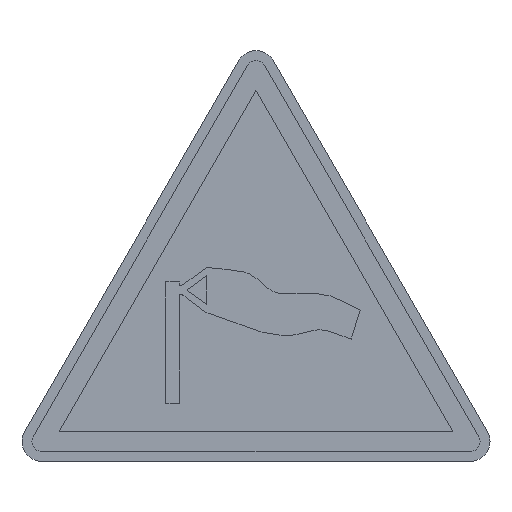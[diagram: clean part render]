
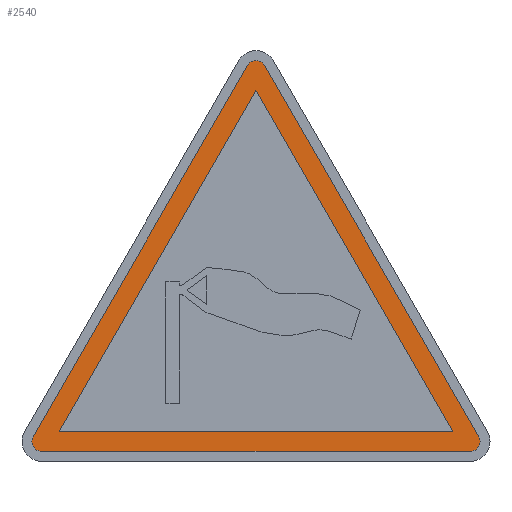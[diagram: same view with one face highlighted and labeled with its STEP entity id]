
A CAD part, top view. The second image highlights one B-rep face of the part: STEP entity #2540.
In plain terms, the highlighted planar face has unit normal (0, 0, 1).
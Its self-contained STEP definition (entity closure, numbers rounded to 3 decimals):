
#83 = DIRECTION ( 'NONE',  ( 1., 0., 0. ) ) ;
#96 = DIRECTION ( 'NONE',  ( -0.5, -0.866, 0. ) ) ;
#162 = EDGE_CURVE ( 'NONE', #1733, #490, #1542, .T. ) ;
#250 = LINE ( 'NONE', #2451, #2176 ) ;
#364 = ORIENTED_EDGE ( 'NONE', *, *, #1359, .T. ) ;
#383 = AXIS2_PLACEMENT_3D ( 'NONE', #2964, #589, #1519 ) ;
#457 = DIRECTION ( 'NONE',  ( 0., 0., 1. ) ) ;
#490 = VERTEX_POINT ( 'NONE', #990 ) ;
#589 = DIRECTION ( 'NONE',  ( 0., 0., 1. ) ) ;
#662 = CARTESIAN_POINT ( 'NONE',  ( 0., 37.301, 0.22 ) ) ;
#664 = ORIENTED_EDGE ( 'NONE', *, *, #2969, .T. ) ;
#739 = DIRECTION ( 'NONE',  ( 0., 0., 1. ) ) ;
#751 = CARTESIAN_POINT ( 'NONE',  ( -21.536, 1., 0.22 ) ) ;
#758 = EDGE_CURVE ( 'NONE', #1972, #1230, #2044, .T. ) ;
#763 = VECTOR ( 'NONE', #2882, 1000. ) ;
#799 = FACE_OUTER_BOUND ( 'NONE', #1847, .T. ) ;
#829 = AXIS2_PLACEMENT_3D ( 'NONE', #1312, #2278, #2524 ) ;
#839 = VECTOR ( 'NONE', #1090, 1000. ) ;
#856 = CARTESIAN_POINT ( 'NONE',  ( 0., 37.301, 0.22 ) ) ;
#887 = AXIS2_PLACEMENT_3D ( 'NONE', #1475, #739, #2445 ) ;
#990 = CARTESIAN_POINT ( 'NONE',  ( -22.536, 2., 0.22 ) ) ;
#1016 = CARTESIAN_POINT ( 'NONE',  ( 22.402, 2.5, 0.22 ) ) ;
#1059 = VERTEX_POINT ( 'NONE', #2442 ) ;
#1090 = DIRECTION ( 'NONE',  ( -0.5, -0.866, 0. ) ) ;
#1091 = ORIENTED_EDGE ( 'NONE', *, *, #2156, .T. ) ;
#1114 = DIRECTION ( 'NONE',  ( 1., 0., 0. ) ) ;
#1150 = DIRECTION ( 'NONE',  ( 1., 0., 0. ) ) ;
#1152 = ORIENTED_EDGE ( 'NONE', *, *, #2430, .F. ) ;
#1230 = VERTEX_POINT ( 'NONE', #2226 ) ;
#1242 = CARTESIAN_POINT ( 'NONE',  ( 22.402, 2.5, 0.22 ) ) ;
#1311 = ORIENTED_EDGE ( 'NONE', *, *, #758, .F. ) ;
#1312 = CARTESIAN_POINT ( 'NONE',  ( 0., 39.301, 0.22 ) ) ;
#1359 = EDGE_CURVE ( 'NONE', #1770, #2521, #1420, .T. ) ;
#1415 = CARTESIAN_POINT ( 'NONE',  ( -22.402, 2.5, 0.22 ) ) ;
#1420 = LINE ( 'NONE', #3062, #1455 ) ;
#1455 = VECTOR ( 'NONE', #2800, 1000. ) ;
#1475 = CARTESIAN_POINT ( 'NONE',  ( 21.536, 2., 0.22 ) ) ;
#1515 = ORIENTED_EDGE ( 'NONE', *, *, #2625, .T. ) ;
#1518 = ORIENTED_EDGE ( 'NONE', *, *, #162, .T. ) ;
#1519 = DIRECTION ( 'NONE',  ( 1., 0., 0. ) ) ;
#1537 = LINE ( 'NONE', #2268, #2729 ) ;
#1542 = CIRCLE ( 'NONE', #2399, 1. ) ;
#1667 = CARTESIAN_POINT ( 'NONE',  ( 0., 39.301, 0.22 ) ) ;
#1733 = VERTEX_POINT ( 'NONE', #1415 ) ;
#1755 = FACE_BOUND ( 'NONE', #2818, .T. ) ;
#1770 = VERTEX_POINT ( 'NONE', #751 ) ;
#1796 = CARTESIAN_POINT ( 'NONE',  ( -19.804, 3., 0.22 ) ) ;
#1802 = PLANE ( 'NONE',  #829 ) ;
#1810 = EDGE_CURVE ( 'NONE', #2521, #2120, #2957, .T. ) ;
#1830 = CARTESIAN_POINT ( 'NONE',  ( -0.866, 39.801, 0.22 ) ) ;
#1847 = EDGE_LOOP ( 'NONE', ( #1515, #1091, #1518, #1867, #364, #1938, #664 ) ) ;
#1867 = ORIENTED_EDGE ( 'NONE', *, *, #2783, .T. ) ;
#1938 = ORIENTED_EDGE ( 'NONE', *, *, #1810, .T. ) ;
#1972 = VERTEX_POINT ( 'NONE', #1796 ) ;
#2007 = CARTESIAN_POINT ( 'NONE',  ( 21.536, 1., 0.22 ) ) ;
#2044 = LINE ( 'NONE', #2765, #2810 ) ;
#2052 = ORIENTED_EDGE ( 'NONE', *, *, #2205, .F. ) ;
#2063 = LINE ( 'NONE', #856, #839 ) ;
#2120 = VERTEX_POINT ( 'NONE', #1016 ) ;
#2156 = EDGE_CURVE ( 'NONE', #2923, #1733, #1537, .T. ) ;
#2176 = VECTOR ( 'NONE', #2688, 1000. ) ;
#2205 = EDGE_CURVE ( 'NONE', #2926, #1972, #2063, .T. ) ;
#2214 = CIRCLE ( 'NONE', #383, 1. ) ;
#2226 = CARTESIAN_POINT ( 'NONE',  ( 19.804, 3., 0.22 ) ) ;
#2268 = CARTESIAN_POINT ( 'NONE',  ( -0.866, 39.801, 0.22 ) ) ;
#2278 = DIRECTION ( 'NONE',  ( 0., 0., 1. ) ) ;
#2399 = AXIS2_PLACEMENT_3D ( 'NONE', #3087, #457, #1150 ) ;
#2416 = LINE ( 'NONE', #1242, #763 ) ;
#2430 = EDGE_CURVE ( 'NONE', #1230, #2926, #250, .T. ) ;
#2442 = CARTESIAN_POINT ( 'NONE',  ( 0.866, 39.801, 0.22 ) ) ;
#2445 = DIRECTION ( 'NONE',  ( 1., 0., 0. ) ) ;
#2451 = CARTESIAN_POINT ( 'NONE',  ( 19.804, 3., 0.22 ) ) ;
#2521 = VERTEX_POINT ( 'NONE', #2007 ) ;
#2524 = DIRECTION ( 'NONE',  ( 1., 0., 0. ) ) ;
#2540 = ADVANCED_FACE ( 'NONE', ( #799, #1755 ), #1802, .T. ) ;
#2625 = EDGE_CURVE ( 'NONE', #1059, #2923, #2997, .T. ) ;
#2688 = DIRECTION ( 'NONE',  ( -0.5, 0.866, 0. ) ) ;
#2729 = VECTOR ( 'NONE', #96, 1000. ) ;
#2765 = CARTESIAN_POINT ( 'NONE',  ( -19.804, 3., 0.22 ) ) ;
#2783 = EDGE_CURVE ( 'NONE', #490, #1770, #2214, .T. ) ;
#2800 = DIRECTION ( 'NONE',  ( 1., 0., 0. ) ) ;
#2810 = VECTOR ( 'NONE', #83, 1000. ) ;
#2818 = EDGE_LOOP ( 'NONE', ( #1311, #2052, #1152 ) ) ;
#2822 = DIRECTION ( 'NONE',  ( 0., 0., 1. ) ) ;
#2882 = DIRECTION ( 'NONE',  ( -0.5, 0.866, 0. ) ) ;
#2923 = VERTEX_POINT ( 'NONE', #1830 ) ;
#2926 = VERTEX_POINT ( 'NONE', #662 ) ;
#2957 = CIRCLE ( 'NONE', #887, 1. ) ;
#2964 = CARTESIAN_POINT ( 'NONE',  ( -21.536, 2., 0.22 ) ) ;
#2969 = EDGE_CURVE ( 'NONE', #2120, #1059, #2416, .T. ) ;
#2997 = CIRCLE ( 'NONE', #3105, 1. ) ;
#3062 = CARTESIAN_POINT ( 'NONE',  ( -21.536, 1., 0.22 ) ) ;
#3087 = CARTESIAN_POINT ( 'NONE',  ( -21.536, 2., 0.22 ) ) ;
#3105 = AXIS2_PLACEMENT_3D ( 'NONE', #1667, #2822, #1114 ) ;
